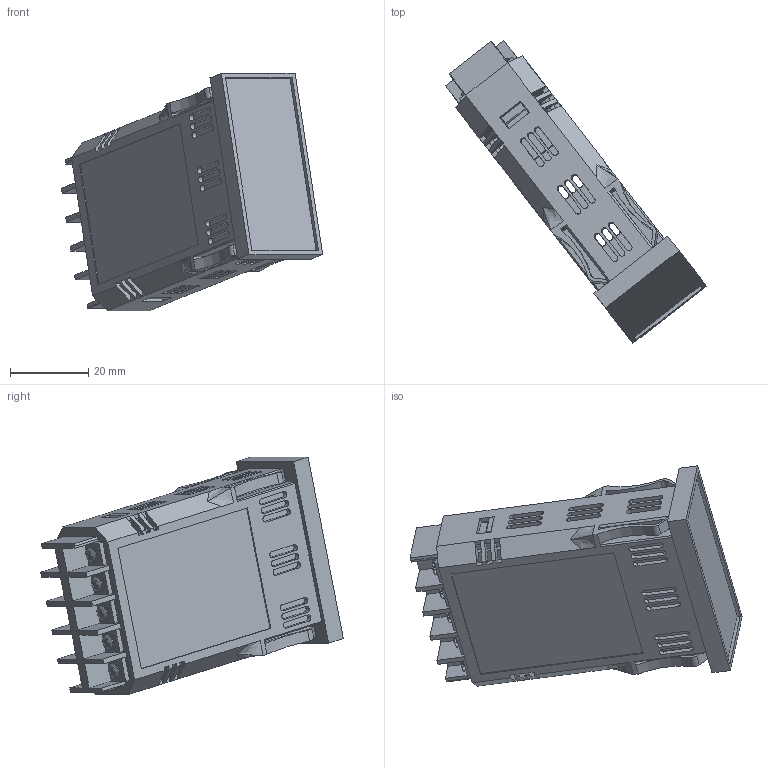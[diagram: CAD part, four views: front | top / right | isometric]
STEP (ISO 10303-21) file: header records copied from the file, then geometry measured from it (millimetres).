
FILE_DESCRIPTION(/* description */ (''),/* implementation_level */ '2;1');
FILE_NAME(/* name */ 'C:\Users\Justin\Documents\CAD Drawings\The Sensor Connection\3D\PMD1XT\PMD1XT ASSY_Shrinkwrap_1.stp',/* time_stamp */ '2018-10-09T15:06:02-04:00',/* author */ ('Justin'),/* organization */ (''),/* preprocessor_version */ 'ST-DEVELOPER v17.2',/* originating_system */ 'Autodesk Inventor 2019',/* authorisation */ '');
FILE_SCHEMA (('AUTOMOTIVE_DESIGN { 1 0 10303 214 3 1 1 }'));
Length unit declared in the file: inch
Products named in the file (1): PMD1XT ASSY_Shrinkwrap_1
Bounding box: 66.85 x 77.44 x 60.78 mm (x, y, z)
Volume: 22106.7 mm3; surface area: 35765.8 mm2
Topology: 22 solids, 22 shells, 814 faces, 2357 edges, 1547 vertices
Faces by surface type: plane 514, cylinder 132, cone 110, torus 40, sphere 10, bspline 8
Full cylindrical faces by diameter (mm): 2.184 x10, 2.946 x20
Entity records: 29317 total; most frequent: CARTESIAN_POINT 6853, ORIENTED_EDGE 4694, DIRECTION 4310, EDGE_CURVE 2347, VERTEX_POINT 1547, LINE 1502, VECTOR 1502, AXIS2_PLACEMENT_3D 1404
